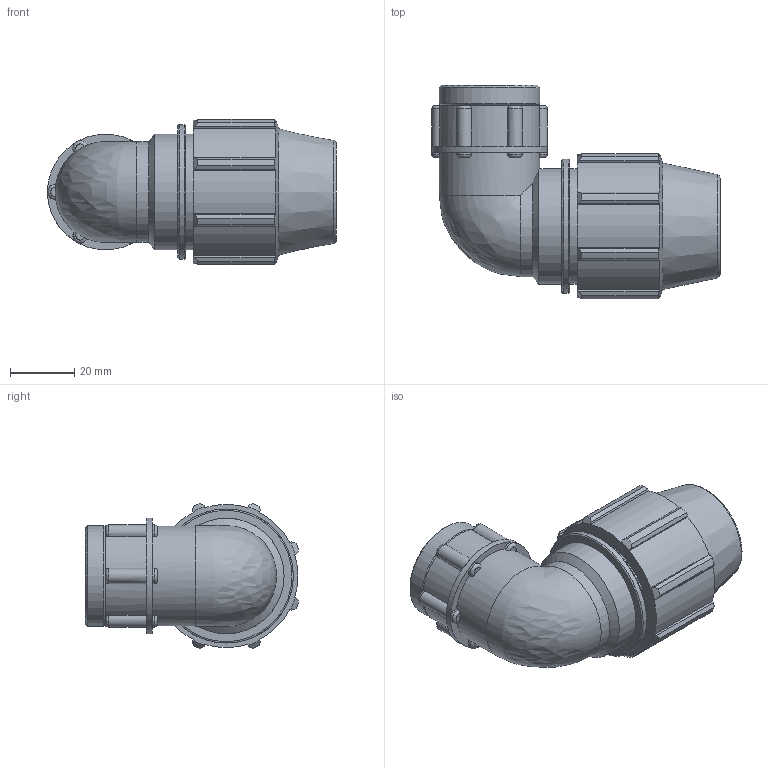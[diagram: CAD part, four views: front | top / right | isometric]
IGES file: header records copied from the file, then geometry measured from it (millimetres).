
Global section: file name: 0715M0005007.ipt; native system: Autodesk Inventor 2019; preprocessor: unknown; author: KIM; date: 20210826.124744; units: inch
Bounding box: 89.91 x 66.53 x 45.17 mm (x, y, z)
Volume: 76506.7 mm3; surface area: 24162.5 mm2
Topology: 1 solids, 1 shells, 139 faces, 385 edges, 252 vertices
Faces by surface type: plane 60, cylinder 41, revolution 22, cone 14, bspline 2
Full cylindrical faces by diameter (mm): 31.352 x2, 36.005 x2, 36.055 x1, 41.765 x1
